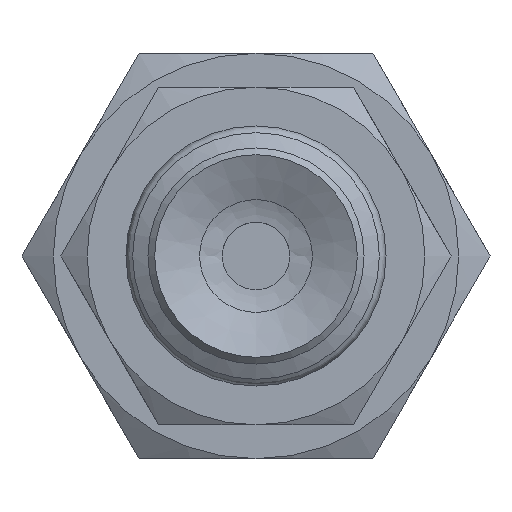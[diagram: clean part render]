
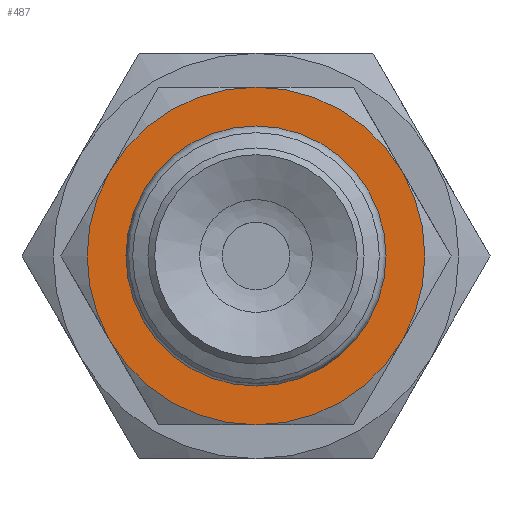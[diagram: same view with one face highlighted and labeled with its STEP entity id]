
A CAD part, front view. The second image highlights one B-rep face of the part: STEP entity #487.
In plain terms, the highlighted planar face has unit normal (0, -1, 0).
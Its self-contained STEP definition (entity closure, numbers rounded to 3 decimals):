
#487=ADVANCED_FACE('',(#723,#724),#725,.T.);
#723=FACE_BOUND('',#1007,.T.);
#724=FACE_OUTER_BOUND('',#1008,.T.);
#725=PLANE('',#1009);
#1007=EDGE_LOOP('',(#1730));
#1008=EDGE_LOOP('',(#1731,#1732,#1733,#1734,#1735,#1736));
#1009=AXIS2_PLACEMENT_3D('',#1737,#1738,#1739);
#1730=ORIENTED_EDGE('',*,*,#2042,.F.);
#1731=ORIENTED_EDGE('',*,*,#1995,.T.);
#1732=ORIENTED_EDGE('',*,*,#1989,.T.);
#1733=ORIENTED_EDGE('',*,*,#2044,.T.);
#1734=ORIENTED_EDGE('',*,*,#2053,.T.);
#1735=ORIENTED_EDGE('',*,*,#1973,.T.);
#1736=ORIENTED_EDGE('',*,*,#2030,.T.);
#1737=CARTESIAN_POINT('',(2.0,0.,0.0));
#1738=DIRECTION('',(0.0,-1.0,0.0));
#1739=DIRECTION('',(0.0,0.0,-1.0));
#1973=EDGE_CURVE('',#2234,#2248,#2250,.T.);
#1989=EDGE_CURVE('',#2266,#2277,#2279,.T.);
#1995=EDGE_CURVE('',#2280,#2266,#2289,.T.);
#2030=EDGE_CURVE('',#2248,#2280,#2349,.T.);
#2042=EDGE_CURVE('',#2368,#2368,#2369,.T.);
#2044=EDGE_CURVE('',#2277,#2251,#2371,.T.);
#2053=EDGE_CURVE('',#2251,#2234,#2383,.T.);
#2234=VERTEX_POINT('',#2870);
#2248=VERTEX_POINT('',#2896);
#2250=CIRCLE('',#2900,5.0);
#2251=VERTEX_POINT('',#2901);
#2266=VERTEX_POINT('',#2927);
#2277=VERTEX_POINT('',#2948);
#2279=CIRCLE('',#2952,5.0);
#2280=VERTEX_POINT('',#2953);
#2289=CIRCLE('',#2971,5.0);
#2349=CIRCLE('',#3109,5.0);
#2368=VERTEX_POINT('',#3136);
#2369=CIRCLE('',#3137,2.0);
#2371=CIRCLE('',#3141,5.0);
#2383=CIRCLE('',#3157,5.0);
#2870=CARTESIAN_POINT('',(-4.33,0.,2.5));
#2896=CARTESIAN_POINT('',(-4.33,0.0,-2.5));
#2900=AXIS2_PLACEMENT_3D('',#3335,#3336,#3337);
#2901=CARTESIAN_POINT('',(0.0,0.0,5.0));
#2927=CARTESIAN_POINT('',(4.33,0.0,-2.5));
#2948=CARTESIAN_POINT('',(4.33,0.0,2.5));
#2952=AXIS2_PLACEMENT_3D('',#3347,#3348,#3349);
#2953=CARTESIAN_POINT('',(0.0,0.0,-5.0));
#2971=AXIS2_PLACEMENT_3D('',#3351,#3352,#3353);
#3109=AXIS2_PLACEMENT_3D('',#3403,#3404,#3405);
#3136=CARTESIAN_POINT('',(0.0,0.,-2.0));
#3137=AXIS2_PLACEMENT_3D('',#3424,#3425,#3426);
#3141=AXIS2_PLACEMENT_3D('',#3427,#3428,#3429);
#3157=AXIS2_PLACEMENT_3D('',#3447,#3448,#3449);
#3335=CARTESIAN_POINT('',(0.0,0.,0.0));
#3336=DIRECTION('',(0.0,-1.0,0.0));
#3337=DIRECTION('',(0.0,0.0,-1.0));
#3347=CARTESIAN_POINT('',(0.0,0.,0.0));
#3348=DIRECTION('',(0.0,-1.0,0.0));
#3349=DIRECTION('',(0.0,0.0,-1.0));
#3351=CARTESIAN_POINT('',(0.0,0.,0.0));
#3352=DIRECTION('',(0.0,-1.0,0.0));
#3353=DIRECTION('',(0.0,0.0,-1.0));
#3403=CARTESIAN_POINT('',(0.0,0.,0.0));
#3404=DIRECTION('',(0.0,-1.0,0.0));
#3405=DIRECTION('',(0.0,0.0,-1.0));
#3424=CARTESIAN_POINT('',(0.0,0.,0.0));
#3425=DIRECTION('',(0.0,-1.0,0.0));
#3426=DIRECTION('',(0.0,0.0,-1.0));
#3427=CARTESIAN_POINT('',(0.0,0.,0.0));
#3428=DIRECTION('',(0.0,-1.0,0.0));
#3429=DIRECTION('',(0.0,0.0,-1.0));
#3447=CARTESIAN_POINT('',(0.0,0.,0.0));
#3448=DIRECTION('',(0.0,-1.0,0.0));
#3449=DIRECTION('',(0.0,0.0,-1.0));
